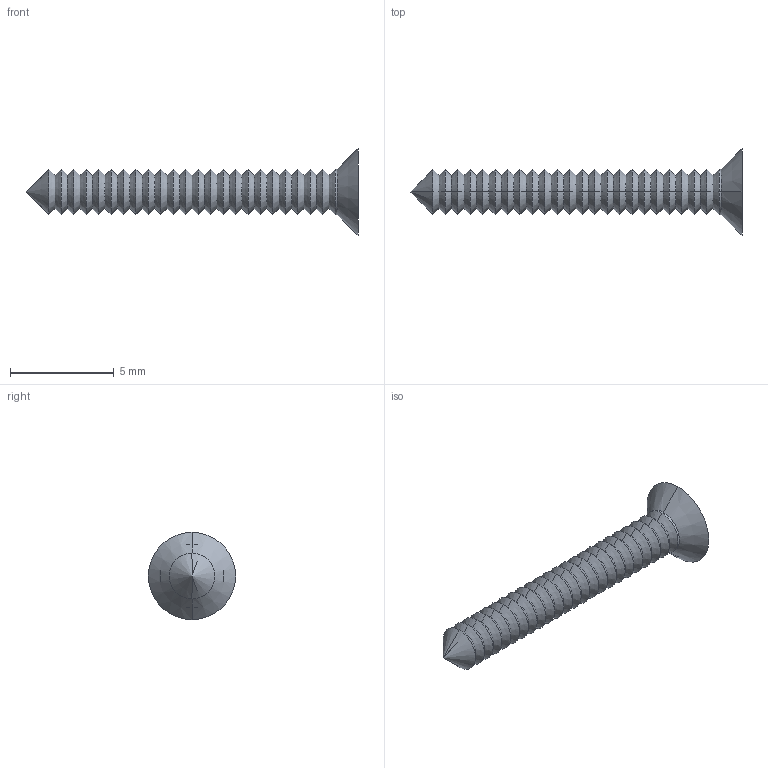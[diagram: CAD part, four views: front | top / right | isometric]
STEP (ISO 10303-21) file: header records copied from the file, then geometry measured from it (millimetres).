
FILE_DESCRIPTION (( 'STEP AP214' ), '1' );
FILE_NAME ('Cargol 2,2x16 PP7A.STEP', '2019-11-04T09:02:59', ( 'aaa' ), ( '' ), 'SwSTEP 2.0', 'SolidWorks 2014', '' );
FILE_SCHEMA (( 'AUTOMOTIVE_DESIGN' ));
Length unit declared in the file: millimetre
Products named in the file (1): Cargol 2,2x16 PP7A
Bounding box: 16 x 4.2 x 4.2 mm (x, y, z)
Volume: 48.2 mm3; surface area: 156.6 mm2
Topology: 1 solids, 1 shells, 112 faces, 234 edges, 123 vertices
Faces by surface type: cone 96, plane 14, cylinder 2
Entity records: 2908 total; most frequent: DIRECTION 556, CARTESIAN_POINT 468, ORIENTED_EDGE 464, EDGE_CURVE 232, AXIS2_PLACEMENT_3D 211, LINE 134, VECTOR 134, VERTEX_POINT 123
